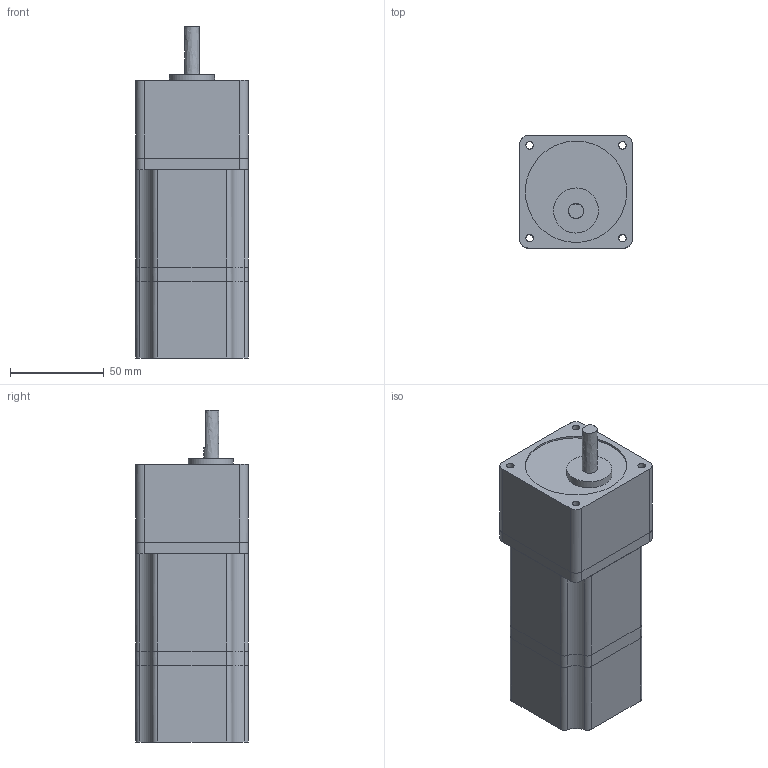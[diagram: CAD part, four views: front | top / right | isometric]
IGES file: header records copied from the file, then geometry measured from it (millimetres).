
Global section: file name: PN00309; native system: unknown; preprocessor: unknown; author: schiaoQD33W; organization: unknown; date: 20180621.010710; units: millimetre
Bounding box: 60 x 60 x 177.03 mm (x, y, z)
Volume: 503884.1 mm3; surface area: 70503.3 mm2
Topology: 5 solids, 5 shells, 90 faces, 252 edges, 175 vertices
Faces by surface type: bspline 90
